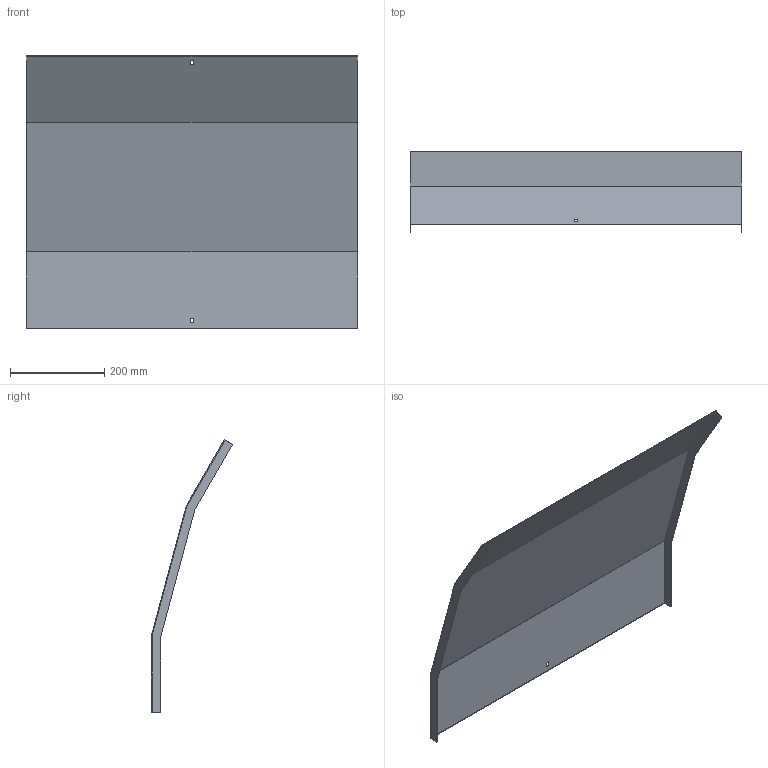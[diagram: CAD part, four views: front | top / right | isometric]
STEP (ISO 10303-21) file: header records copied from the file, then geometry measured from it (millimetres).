
FILE_DESCRIPTION (( 'STEP AP214' ), '1' );
FILE_NAME ('35N5C700.step', '2025-02-21T10:28:46', ( '' ), ( '' ), 'SwSTEP 2.0', 'SolidWorks 2023', '' );
FILE_SCHEMA (( 'AUTOMOTIVE_DESIGN' ));
Length unit declared in the file: millimetre
Products named in the file (1): 35N5C700
Bounding box: 703 x 172.21 x 578.06 mm (x, y, z)
Volume: 675674.6 mm3; surface area: 905010.6 mm2
Topology: 1 solids, 1 shells, 26 faces, 72 edges, 48 vertices
Faces by surface type: plane 26
Entity records: 847 total; most frequent: CARTESIAN_POINT 147, ORIENTED_EDGE 144, DIRECTION 126, VECTOR 72, LINE 72, EDGE_CURVE 72, VERTEX_POINT 48, EDGE_LOOP 30
